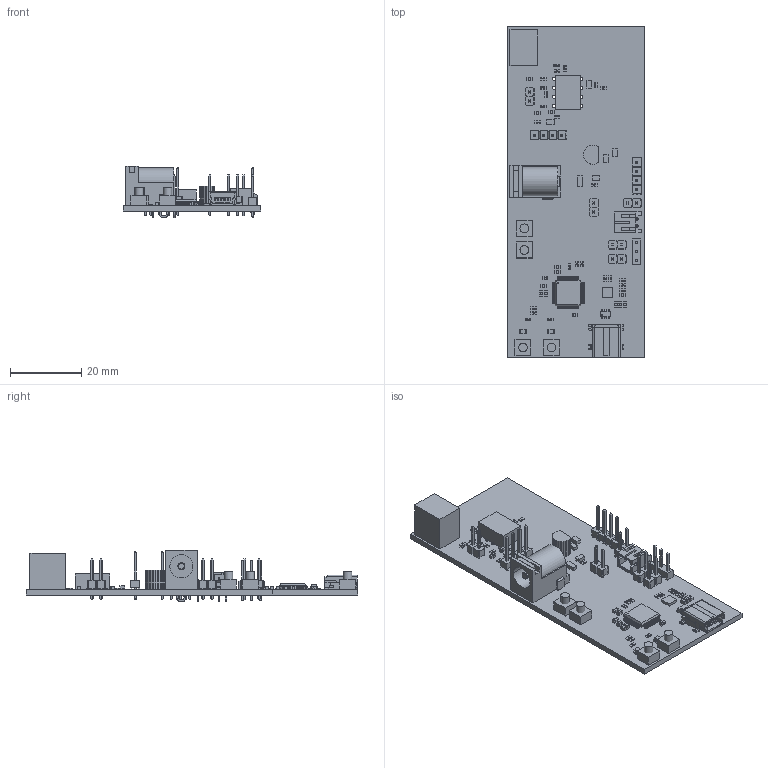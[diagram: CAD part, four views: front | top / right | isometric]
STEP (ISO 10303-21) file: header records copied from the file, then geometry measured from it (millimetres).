
FILE_DESCRIPTION(('Open CASCADE Model'),'2;1');
FILE_NAME('Open CASCADE Shape Model','2026-11-18T23:29:15',('Author'),( 'Open CASCADE'),'Open CASCADE STEP processor 7.5','Open CASCADE 7.5' ,'Unknown');
FILE_SCHEMA(('AUTOMOTIVE_DESIGN { 1 0 10303 214 1 1 1 1 }'));
Length unit declared in the file: millimetre
Products named in the file (104): PCB; Board; Open CASCADE STEP translator 7.5 1.1.1; U5; SOT23-6-2; U3; 8396964944; SW1; 8590303456; Cylinder; 8590302400; Extruded; U4; 8590302976; U2; 8581173184; U1; 8589708016; SW4; SW3; SW2; R24; C0603; R23; R22; R21; R20; R19; R18; R17; R16; R15; R14; R13; R12; R11; R10; R9; R8; R7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
Assembly tree (155 placements, depth 4):
  PCB
    Board
      Open CASCADE STEP translator 7.5 1.1.1
    U5
      SOT23-6-2
    U3
      8396964944
    SW1
      8590303456
        Cylinder
      8590302400
        Extruded
    U4
      8590302976
        Extruded
    U2
      8581173184
        Extruded
    U1
      8589708016
        Extruded
    SW4
      8590302400
        Extruded
      8590303456
        Cylinder
    SW3
      8590302400
        Extruded
      8590303456
        Cylinder
    SW2
      8590303456
        Cylinder
      8590302400
        Extruded
    R24
      C0603
    R23
      C0603
    R22
      C0603
    R21
      C0603
    R20
      C0603
    R19
      C0603
    R18
      C0603
    R17
      C0603
    R16
      C0603
    R15
      C0603
    R14
      C0603
    R13
      C0603
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Bounding box: 38.73 x 93.34 x 14.5 mm (x, y, z)
Volume: 9072.9 mm3; surface area: 13039.1 mm2
Topology: 157 solids, 157 shells, 5357 faces, 13265 edges, 8122 vertices
Faces by surface type: plane 2707, cylinder 1356, bspline 936, sphere 276, revolution 80, cone 2
Full cylindrical faces by diameter (mm): 0.288 x1, 0.762 x2, 0.888 x23, 0.9 x11, 1.4 x2, 2.44 x4
Entity records: 73513 total; most frequent: CARTESIAN_POINT 13295, ORIENTED_EDGE 10126, DIRECTION 10004, EDGE_CURVE 5063, LINE 3916, VECTOR 3916, VERTEX_POINT 3290, AXIS2_PLACEMENT_3D 3036
